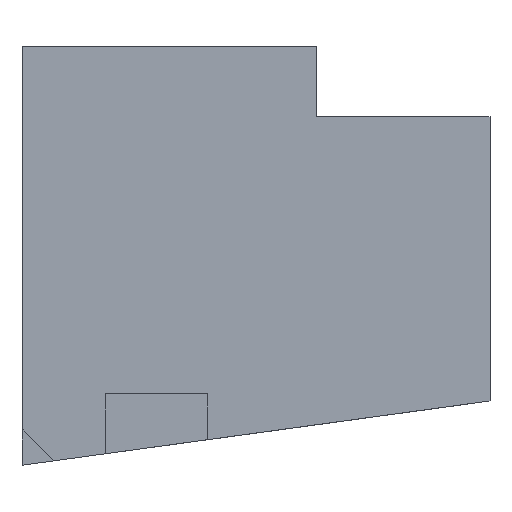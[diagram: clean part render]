
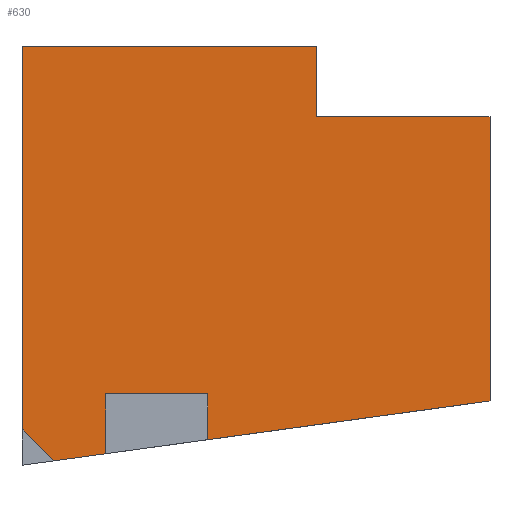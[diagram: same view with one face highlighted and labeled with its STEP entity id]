
A CAD part, front view. The second image highlights one B-rep face of the part: STEP entity #630.
In plain terms, the highlighted planar face has unit normal (0, -1, 0).
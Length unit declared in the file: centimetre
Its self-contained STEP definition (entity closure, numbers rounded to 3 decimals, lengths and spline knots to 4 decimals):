
#6 = VERTEX_POINT ( 'NONE', #339 ) ;
#27 = PLANE ( 'NONE',  #148 ) ;
#48 = VERTEX_POINT ( 'NONE', #1265 ) ;
#64 = CARTESIAN_POINT ( 'NONE',  ( 1000., 0., 850.0313 ) ) ;
#73 = ORIENTED_EDGE ( 'NONE', *, *, #1352, .F. ) ;
#106 = VECTOR ( 'NONE', #869, 100. ) ;
#148 = AXIS2_PLACEMENT_3D ( 'NONE', #774, #1542, #1161 ) ;
#155 = VECTOR ( 'NONE', #421, 100. ) ;
#162 = VERTEX_POINT ( 'NONE', #313 ) ;
#171 = EDGE_CURVE ( 'NONE', #581, #1181, #565, .T. ) ;
#193 = EDGE_CURVE ( 'NONE', #1587, #603, #1046, .T. ) ;
#196 = DIRECTION ( 'NONE',  ( 0., 0., 1. ) ) ;
#221 = LINE ( 'NONE', #334, #482 ) ;
#259 = ORIENTED_EDGE ( 'NONE', *, *, #987, .F. ) ;
#268 = CARTESIAN_POINT ( 'NONE',  ( 66.7441, 0., 115.1761 ) ) ;
#304 = CARTESIAN_POINT ( 'NONE',  ( 1000., 0., 1000. ) ) ;
#313 = CARTESIAN_POINT ( 'NONE',  ( 397.0581, 0., 160.5072 ) ) ;
#319 = CARTESIAN_POINT ( 'NONE',  ( 397.0581, 0., 52.7452 ) ) ;
#334 = CARTESIAN_POINT ( 'NONE',  ( 629.5918, 0., 850.0313 ) ) ;
#339 = CARTESIAN_POINT ( 'NONE',  ( 629.5918, 0., 1000. ) ) ;
#354 = VECTOR ( 'NONE', #396, 100. ) ;
#362 = CARTESIAN_POINT ( 'NONE',  ( 1000., 0., 243.2529 ) ) ;
#369 = EDGE_CURVE ( 'NONE', #48, #1533, #1223, .T. ) ;
#379 = EDGE_CURVE ( 'NONE', #603, #162, #1476, .T. ) ;
#381 = VECTOR ( 'NONE', #1408, 100. ) ;
#385 = ORIENTED_EDGE ( 'NONE', *, *, #1142, .F. ) ;
#396 = DIRECTION ( 'NONE',  ( 0., 0., -1. ) ) ;
#400 = LINE ( 'NONE', #1162, #657 ) ;
#421 = DIRECTION ( 'NONE',  ( 0., 0., -1. ) ) ;
#437 = LINE ( 'NONE', #319, #1077 ) ;
#461 = EDGE_CURVE ( 'NONE', #1180, #6, #1248, .T. ) ;
#480 = DIRECTION ( 'NONE',  ( 1., 0., 0. ) ) ;
#482 = VECTOR ( 'NONE', #480, 100. ) ;
#530 = DIRECTION ( 'NONE',  ( 0., 0., -1. ) ) ;
#550 = CARTESIAN_POINT ( 'NONE',  ( 0., 0., 1000. ) ) ;
#565 = LINE ( 'NONE', #1535, #1356 ) ;
#581 = VERTEX_POINT ( 'NONE', #978 ) ;
#603 = VERTEX_POINT ( 'NONE', #1144 ) ;
#616 = ORIENTED_EDGE ( 'NONE', *, *, #171, .F. ) ;
#618 = CARTESIAN_POINT ( 'NONE',  ( 629.5918, 0., 850.0313 ) ) ;
#630 = ADVANCED_FACE ( 'NONE', ( #661 ), #27, .F. ) ;
#657 = VECTOR ( 'NONE', #530, 100. ) ;
#661 = FACE_OUTER_BOUND ( 'NONE', #1520, .T. ) ;
#687 = VECTOR ( 'NONE', #1374, 100. ) ;
#691 = ORIENTED_EDGE ( 'NONE', *, *, #461, .F. ) ;
#699 = ORIENTED_EDGE ( 'NONE', *, *, #369, .F. ) ;
#765 = VERTEX_POINT ( 'NONE', #1584 ) ;
#774 = CARTESIAN_POINT ( 'NONE',  ( 0., 0., 1000. ) ) ;
#775 = CARTESIAN_POINT ( 'NONE',  ( 0., 0., 185.6774 ) ) ;
#837 = CARTESIAN_POINT ( 'NONE',  ( 1000., 0., 243.2529 ) ) ;
#863 = CARTESIAN_POINT ( 'NONE',  ( 0., 0., 1000. ) ) ;
#869 = DIRECTION ( 'NONE',  ( 1., 0., 0. ) ) ;
#873 = CARTESIAN_POINT ( 'NONE',  ( 629.5918, 0., 850.0313 ) ) ;
#881 = ORIENTED_EDGE ( 'NONE', *, *, #379, .F. ) ;
#891 = EDGE_CURVE ( 'NONE', #6, #1562, #973, .T. ) ;
#956 = EDGE_CURVE ( 'NONE', #1181, #48, #400, .T. ) ;
#973 = LINE ( 'NONE', #618, #687 ) ;
#978 = CARTESIAN_POINT ( 'NONE',  ( 397.0581, 0., 258.7149 ) ) ;
#987 = EDGE_CURVE ( 'NONE', #1533, #765, #1137, .T. ) ;
#1039 = CARTESIAN_POINT ( 'NONE',  ( 178.4923, 0., 258.7149 ) ) ;
#1046 = LINE ( 'NONE', #304, #155 ) ;
#1077 = VECTOR ( 'NONE', #196, 100. ) ;
#1112 = VECTOR ( 'NONE', #1449, 100. ) ;
#1132 = ORIENTED_EDGE ( 'NONE', *, *, #1552, .T. ) ;
#1137 = LINE ( 'NONE', #775, #381 ) ;
#1142 = EDGE_CURVE ( 'NONE', #162, #581, #437, .T. ) ;
#1144 = CARTESIAN_POINT ( 'NONE',  ( 1000., 0., 243.2529 ) ) ;
#1161 = DIRECTION ( 'NONE',  ( 0., 0., 1. ) ) ;
#1162 = CARTESIAN_POINT ( 'NONE',  ( 178.4923, 0., 52.7452 ) ) ;
#1180 = VERTEX_POINT ( 'NONE', #550 ) ;
#1181 = VERTEX_POINT ( 'NONE', #1039 ) ;
#1199 = ORIENTED_EDGE ( 'NONE', *, *, #193, .F. ) ;
#1220 = VECTOR ( 'NONE', #1340, 100. ) ;
#1223 = LINE ( 'NONE', #837, #1220 ) ;
#1248 = LINE ( 'NONE', #863, #106 ) ;
#1265 = CARTESIAN_POINT ( 'NONE',  ( 178.4923, 0., 130.512 ) ) ;
#1280 = ORIENTED_EDGE ( 'NONE', *, *, #956, .F. ) ;
#1282 = DIRECTION ( 'NONE',  ( -1., 0., 0. ) ) ;
#1340 = DIRECTION ( 'NONE',  ( -0.991, 0., -0.136 ) ) ;
#1352 = EDGE_CURVE ( 'NONE', #1562, #1587, #221, .T. ) ;
#1356 = VECTOR ( 'NONE', #1282, 100. ) ;
#1374 = DIRECTION ( 'NONE',  ( 0., 0., -1. ) ) ;
#1406 = CARTESIAN_POINT ( 'NONE',  ( 0., 0., 1000. ) ) ;
#1408 = DIRECTION ( 'NONE',  ( -0.687, 0., 0.726 ) ) ;
#1449 = DIRECTION ( 'NONE',  ( -0.991, 0., -0.136 ) ) ;
#1476 = LINE ( 'NONE', #362, #1112 ) ;
#1503 = ORIENTED_EDGE ( 'NONE', *, *, #891, .F. ) ;
#1513 = LINE ( 'NONE', #1406, #354 ) ;
#1520 = EDGE_LOOP ( 'NONE', ( #1199, #73, #1503, #691, #1132, #259, #699, #1280, #616, #385, #881 ) ) ;
#1533 = VERTEX_POINT ( 'NONE', #268 ) ;
#1535 = CARTESIAN_POINT ( 'NONE',  ( 178.4923, 0., 258.7149 ) ) ;
#1542 = DIRECTION ( 'NONE',  ( 0., 1., 0. ) ) ;
#1552 = EDGE_CURVE ( 'NONE', #1180, #765, #1513, .T. ) ;
#1562 = VERTEX_POINT ( 'NONE', #873 ) ;
#1584 = CARTESIAN_POINT ( 'NONE',  ( 0., 0., 185.6774 ) ) ;
#1587 = VERTEX_POINT ( 'NONE', #64 ) ;
